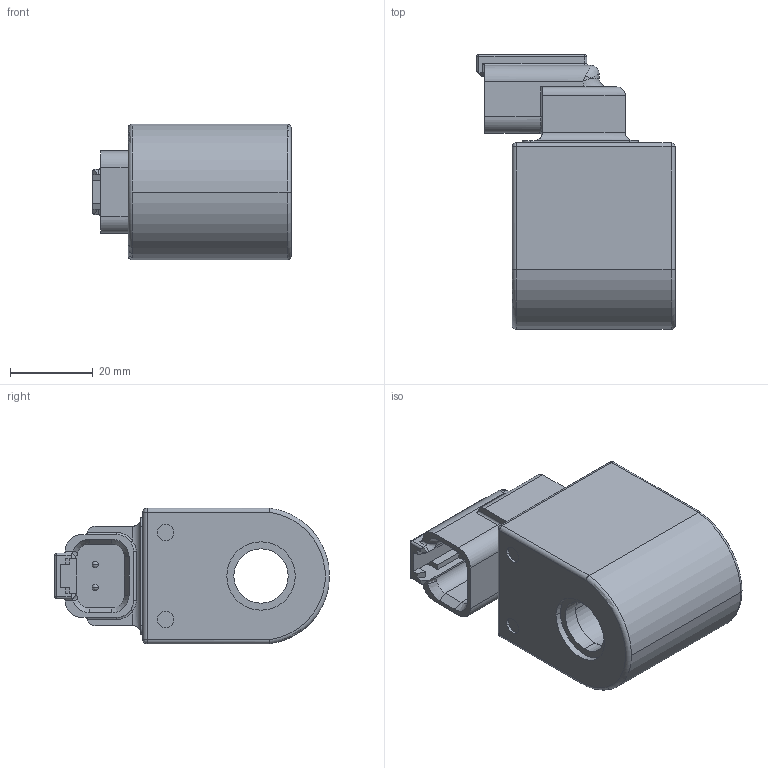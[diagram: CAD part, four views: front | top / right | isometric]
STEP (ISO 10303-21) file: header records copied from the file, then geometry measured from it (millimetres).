
FILE_DESCRIPTION (( 'STEP AP214' ), '1' );
FILE_NAME ('KGE33_13x39.STEP', '2016-06-08T13:40:56', ( '' ), ( '' ), 'SwSTEP 2.0', 'SolidWorks 2014', '' );
FILE_SCHEMA (( 'AUTOMOTIVE_DESIGN' ));
Length unit declared in the file: millimetre
Products named in the file (2): KGE33_13x39
Bounding box: 47.85 x 66.3 x 32.75 mm (x, y, z)
Volume: 57845.6 mm3; surface area: 12897.8 mm2
Topology: 1 solids, 1 shells, 168 faces, 406 edges, 237 vertices
Faces by surface type: plane 68, cylinder 67, torus 13, sphere 8, bspline 8, cone 4
Entity records: 5193 total; most frequent: CARTESIAN_POINT 1323, DIRECTION 806, ORIENTED_EDGE 792, EDGE_CURVE 396, AXIS2_PLACEMENT_3D 292, VERTEX_POINT 237, VECTOR 222, LINE 222
